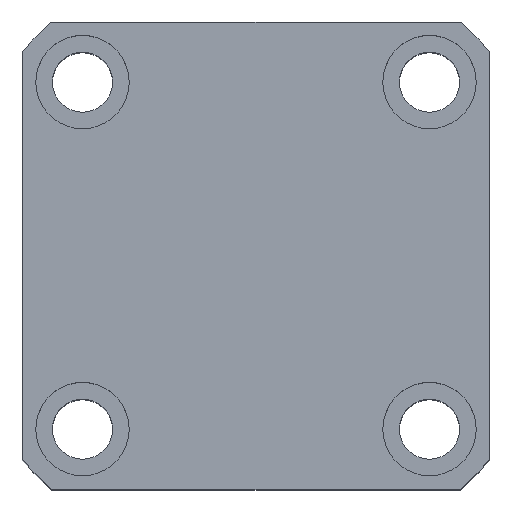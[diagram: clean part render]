
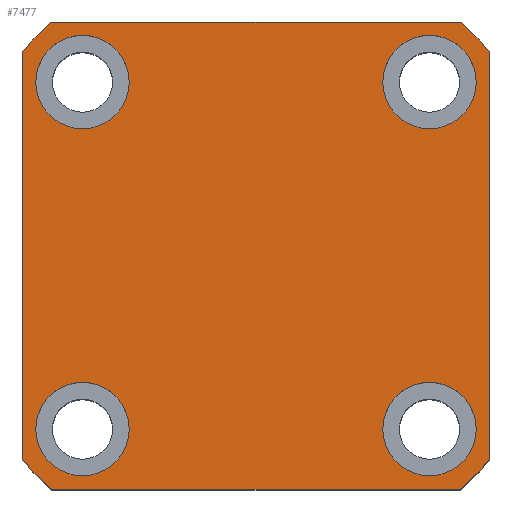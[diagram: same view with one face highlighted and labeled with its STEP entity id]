
A CAD part, top view. The second image highlights one B-rep face of the part: STEP entity #7477.
In plain terms, the highlighted planar face has unit normal (0, 0, 1).
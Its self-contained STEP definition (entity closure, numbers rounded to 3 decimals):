
#105 = AXIS2_PLACEMENT_3D ( 'NONE', #5777, #7338, #7286 ) ;
#129 = ORIENTED_EDGE ( 'NONE', *, *, #7688, .T. ) ;
#147 = CARTESIAN_POINT ( 'NONE',  ( 26., -26., 75. ) ) ;
#148 = VERTEX_POINT ( 'NONE', #3339 ) ;
#208 = CIRCLE ( 'NONE', #13477, 7. ) ;
#294 = AXIS2_PLACEMENT_3D ( 'NONE', #12672, #4421, #11681 ) ;
#309 = CARTESIAN_POINT ( 'NONE',  ( -35., -30.615, 75. ) ) ;
#312 = FACE_OUTER_BOUND ( 'NONE', #8035, .T. ) ;
#442 = DIRECTION ( 'NONE',  ( 0., 0., 1. ) ) ;
#603 = VERTEX_POINT ( 'NONE', #6783 ) ;
#634 = FACE_BOUND ( 'NONE', #2560, .T. ) ;
#660 = LINE ( 'NONE', #12257, #11127 ) ;
#755 = DIRECTION ( 'NONE',  ( 1., 0., 0. ) ) ;
#769 = DIRECTION ( 'NONE',  ( 1., 0., 0. ) ) ;
#1016 = VERTEX_POINT ( 'NONE', #5154 ) ;
#1061 = EDGE_CURVE ( 'NONE', #7115, #12322, #11404, .T. ) ;
#1149 = ORIENTED_EDGE ( 'NONE', *, *, #13295, .T. ) ;
#1223 = DIRECTION ( 'NONE',  ( 1., 0., 0. ) ) ;
#1282 = EDGE_CURVE ( 'NONE', #13075, #8773, #8962, .T. ) ;
#1844 = EDGE_CURVE ( 'NONE', #9729, #1016, #8929, .T. ) ;
#1930 = VECTOR ( 'NONE', #11349, 1000. ) ;
#1955 = ORIENTED_EDGE ( 'NONE', *, *, #7963, .T. ) ;
#2259 = EDGE_CURVE ( 'NONE', #12322, #148, #5367, .T. ) ;
#2408 = DIRECTION ( 'NONE',  ( 0., 0., 1. ) ) ;
#2505 = VERTEX_POINT ( 'NONE', #3725 ) ;
#2560 = EDGE_LOOP ( 'NONE', ( #6308, #12144 ) ) ;
#2679 = CARTESIAN_POINT ( 'NONE',  ( -19., -26., 75. ) ) ;
#2705 = LINE ( 'NONE', #8787, #7590 ) ;
#3015 = EDGE_LOOP ( 'NONE', ( #7722, #5668 ) ) ;
#3140 = FACE_BOUND ( 'NONE', #11637, .T. ) ;
#3274 = VERTEX_POINT ( 'NONE', #309 ) ;
#3282 = CARTESIAN_POINT ( 'NONE',  ( -33., 26., 75. ) ) ;
#3339 = CARTESIAN_POINT ( 'NONE',  ( 35., 30.615, 75. ) ) ;
#3475 = FACE_BOUND ( 'NONE', #3015, .T. ) ;
#3507 = AXIS2_PLACEMENT_3D ( 'NONE', #13255, #7039, #755 ) ;
#3725 = CARTESIAN_POINT ( 'NONE',  ( 19., -26., 75. ) ) ;
#3963 = CIRCLE ( 'NONE', #9412, 46.5 ) ;
#4090 = CARTESIAN_POINT ( 'NONE',  ( 0., 0., 75. ) ) ;
#4121 = CIRCLE ( 'NONE', #7758, 46.5 ) ;
#4125 = DIRECTION ( 'NONE',  ( 0., 0., 1. ) ) ;
#4176 = AXIS2_PLACEMENT_3D ( 'NONE', #6731, #442, #7769 ) ;
#4225 = CARTESIAN_POINT ( 'NONE',  ( 26., -26., 75. ) ) ;
#4338 = DIRECTION ( 'NONE',  ( 0., 0., 1. ) ) ;
#4366 = AXIS2_PLACEMENT_3D ( 'NONE', #8844, #8852, #8868 ) ;
#4374 = EDGE_LOOP ( 'NONE', ( #6815, #6497 ) ) ;
#4394 = ORIENTED_EDGE ( 'NONE', *, *, #1282, .F. ) ;
#4421 = DIRECTION ( 'NONE',  ( 0., 0., 1. ) ) ;
#4637 = AXIS2_PLACEMENT_3D ( 'NONE', #4225, #11479, #5256 ) ;
#4657 = CARTESIAN_POINT ( 'NONE',  ( -33., -26., 75. ) ) ;
#4735 = EDGE_CURVE ( 'NONE', #2505, #10531, #7891, .T. ) ;
#4763 = CARTESIAN_POINT ( 'NONE',  ( 0., 0., 75. ) ) ;
#4849 = DIRECTION ( 'NONE',  ( 1., 0., 0. ) ) ;
#4876 = EDGE_CURVE ( 'NONE', #10531, #2505, #6914, .T. ) ;
#5124 = DIRECTION ( 'NONE',  ( 1., 0., 0. ) ) ;
#5154 = CARTESIAN_POINT ( 'NONE',  ( -35., 30.615, 75. ) ) ;
#5253 = LINE ( 'NONE', #7851, #13209 ) ;
#5256 = DIRECTION ( 'NONE',  ( 1., 0., 0. ) ) ;
#5285 = DIRECTION ( 'NONE',  ( 0., 0., 1. ) ) ;
#5367 = LINE ( 'NONE', #11676, #1930 ) ;
#5505 = ORIENTED_EDGE ( 'NONE', *, *, #2259, .T. ) ;
#5668 = ORIENTED_EDGE ( 'NONE', *, *, #4735, .F. ) ;
#5752 = VERTEX_POINT ( 'NONE', #2679 ) ;
#5777 = CARTESIAN_POINT ( 'NONE',  ( 0., 0., 75. ) ) ;
#5826 = ORIENTED_EDGE ( 'NONE', *, *, #5962, .T. ) ;
#5962 = EDGE_CURVE ( 'NONE', #13448, #9729, #660, .T. ) ;
#6044 = DIRECTION ( 'NONE',  ( -1., 0., 0. ) ) ;
#6308 = ORIENTED_EDGE ( 'NONE', *, *, #13044, .F. ) ;
#6497 = ORIENTED_EDGE ( 'NONE', *, *, #13115, .F. ) ;
#6731 = CARTESIAN_POINT ( 'NONE',  ( -26., 26., 75. ) ) ;
#6783 = CARTESIAN_POINT ( 'NONE',  ( -30.615, -35., 75. ) ) ;
#6815 = ORIENTED_EDGE ( 'NONE', *, *, #9494, .F. ) ;
#6914 = CIRCLE ( 'NONE', #11590, 7. ) ;
#6958 = VERTEX_POINT ( 'NONE', #4657 ) ;
#7039 = DIRECTION ( 'NONE',  ( 0., 0., 1. ) ) ;
#7050 = DIRECTION ( 'NONE',  ( 0., 0., 1. ) ) ;
#7115 = VERTEX_POINT ( 'NONE', #11045 ) ;
#7286 = DIRECTION ( 'NONE',  ( 1., 0., 0. ) ) ;
#7338 = DIRECTION ( 'NONE',  ( 0., 0., 1. ) ) ;
#7347 = ORIENTED_EDGE ( 'NONE', *, *, #1061, .T. ) ;
#7477 = ADVANCED_FACE ( 'NONE', ( #634, #3475, #11762, #3140, #312 ), #11634, .T. ) ;
#7487 = DIRECTION ( 'NONE',  ( 0., 0., 1. ) ) ;
#7590 = VECTOR ( 'NONE', #10865, 1000. ) ;
#7688 = EDGE_CURVE ( 'NONE', #1016, #3274, #5253, .T. ) ;
#7722 = ORIENTED_EDGE ( 'NONE', *, *, #4876, .F. ) ;
#7758 = AXIS2_PLACEMENT_3D ( 'NONE', #11511, #5285, #12547 ) ;
#7769 = DIRECTION ( 'NONE',  ( 1., 0., 0. ) ) ;
#7851 = CARTESIAN_POINT ( 'NONE',  ( -35., 35., 75. ) ) ;
#7891 = CIRCLE ( 'NONE', #4637, 7. ) ;
#7963 = EDGE_CURVE ( 'NONE', #148, #13448, #3963, .T. ) ;
#8035 = EDGE_LOOP ( 'NONE', ( #5505, #1955, #5826, #13358, #129, #9147, #1149, #7347 ) ) ;
#8188 = VERTEX_POINT ( 'NONE', #9631 ) ;
#8497 = CIRCLE ( 'NONE', #13517, 7. ) ;
#8593 = EDGE_CURVE ( 'NONE', #3274, #603, #4121, .T. ) ;
#8609 = AXIS2_PLACEMENT_3D ( 'NONE', #10553, #4338, #11600 ) ;
#8647 = CARTESIAN_POINT ( 'NONE',  ( 26., 26., 75. ) ) ;
#8773 = VERTEX_POINT ( 'NONE', #3282 ) ;
#8787 = CARTESIAN_POINT ( 'NONE',  ( -35., -35., 75. ) ) ;
#8844 = CARTESIAN_POINT ( 'NONE',  ( -26., 26., 75. ) ) ;
#8852 = DIRECTION ( 'NONE',  ( 0., 0., 1. ) ) ;
#8868 = DIRECTION ( 'NONE',  ( 1., 0., 0. ) ) ;
#8901 = DIRECTION ( 'NONE',  ( 0., -1., 0. ) ) ;
#8929 = CIRCLE ( 'NONE', #12442, 46.5 ) ;
#8962 = CIRCLE ( 'NONE', #4366, 7. ) ;
#9147 = ORIENTED_EDGE ( 'NONE', *, *, #8593, .T. ) ;
#9412 = AXIS2_PLACEMENT_3D ( 'NONE', #4090, #11344, #5124 ) ;
#9494 = EDGE_CURVE ( 'NONE', #8188, #11983, #8497, .T. ) ;
#9509 = CARTESIAN_POINT ( 'NONE',  ( -19., 26., 75. ) ) ;
#9631 = CARTESIAN_POINT ( 'NONE',  ( 33., 26., 75. ) ) ;
#9685 = DIRECTION ( 'NONE',  ( 1., 0., 0. ) ) ;
#9724 = EDGE_CURVE ( 'NONE', #6958, #5752, #10603, .T. ) ;
#9729 = VERTEX_POINT ( 'NONE', #11171 ) ;
#10476 = CARTESIAN_POINT ( 'NONE',  ( 35., -30.615, 75. ) ) ;
#10531 = VERTEX_POINT ( 'NONE', #10744 ) ;
#10553 = CARTESIAN_POINT ( 'NONE',  ( -26., -26., 75. ) ) ;
#10603 = CIRCLE ( 'NONE', #3507, 7. ) ;
#10744 = CARTESIAN_POINT ( 'NONE',  ( 33., -26., 75. ) ) ;
#10865 = DIRECTION ( 'NONE',  ( 1., 0., 0. ) ) ;
#11045 = CARTESIAN_POINT ( 'NONE',  ( 30.615, -35., 75. ) ) ;
#11127 = VECTOR ( 'NONE', #6044, 1000. ) ;
#11171 = CARTESIAN_POINT ( 'NONE',  ( -30.615, 35., 75. ) ) ;
#11344 = DIRECTION ( 'NONE',  ( 0., 0., 1. ) ) ;
#11349 = DIRECTION ( 'NONE',  ( 0., 1., 0. ) ) ;
#11404 = CIRCLE ( 'NONE', #105, 46.5 ) ;
#11479 = DIRECTION ( 'NONE',  ( 0., 0., 1. ) ) ;
#11511 = CARTESIAN_POINT ( 'NONE',  ( 0., 0., 75. ) ) ;
#11577 = ORIENTED_EDGE ( 'NONE', *, *, #13304, .F. ) ;
#11590 = AXIS2_PLACEMENT_3D ( 'NONE', #147, #7487, #1223 ) ;
#11600 = DIRECTION ( 'NONE',  ( 1., 0., 0. ) ) ;
#11634 = PLANE ( 'NONE',  #294 ) ;
#11637 = EDGE_LOOP ( 'NONE', ( #4394, #11577 ) ) ;
#11676 = CARTESIAN_POINT ( 'NONE',  ( 35., 35., 75. ) ) ;
#11681 = DIRECTION ( 'NONE',  ( 1., 0., 0. ) ) ;
#11762 = FACE_BOUND ( 'NONE', #4374, .T. ) ;
#11983 = VERTEX_POINT ( 'NONE', #12145 ) ;
#12070 = CARTESIAN_POINT ( 'NONE',  ( 30.615, 35., 75. ) ) ;
#12144 = ORIENTED_EDGE ( 'NONE', *, *, #9724, .F. ) ;
#12145 = CARTESIAN_POINT ( 'NONE',  ( 19., 26., 75. ) ) ;
#12257 = CARTESIAN_POINT ( 'NONE',  ( -35., 35., 75. ) ) ;
#12294 = CIRCLE ( 'NONE', #8609, 7. ) ;
#12322 = VERTEX_POINT ( 'NONE', #10476 ) ;
#12442 = AXIS2_PLACEMENT_3D ( 'NONE', #4763, #4125, #4849 ) ;
#12547 = DIRECTION ( 'NONE',  ( 1., 0., 0. ) ) ;
#12672 = CARTESIAN_POINT ( 'NONE',  ( 0., 0., 75. ) ) ;
#13044 = EDGE_CURVE ( 'NONE', #5752, #6958, #12294, .T. ) ;
#13075 = VERTEX_POINT ( 'NONE', #9509 ) ;
#13108 = CIRCLE ( 'NONE', #4176, 7. ) ;
#13115 = EDGE_CURVE ( 'NONE', #11983, #8188, #208, .T. ) ;
#13209 = VECTOR ( 'NONE', #8901, 1000. ) ;
#13255 = CARTESIAN_POINT ( 'NONE',  ( -26., -26., 75. ) ) ;
#13269 = CARTESIAN_POINT ( 'NONE',  ( 26., 26., 75. ) ) ;
#13295 = EDGE_CURVE ( 'NONE', #603, #7115, #2705, .T. ) ;
#13304 = EDGE_CURVE ( 'NONE', #8773, #13075, #13108, .T. ) ;
#13358 = ORIENTED_EDGE ( 'NONE', *, *, #1844, .T. ) ;
#13448 = VERTEX_POINT ( 'NONE', #12070 ) ;
#13477 = AXIS2_PLACEMENT_3D ( 'NONE', #8647, #2408, #9685 ) ;
#13517 = AXIS2_PLACEMENT_3D ( 'NONE', #13269, #7050, #769 ) ;
